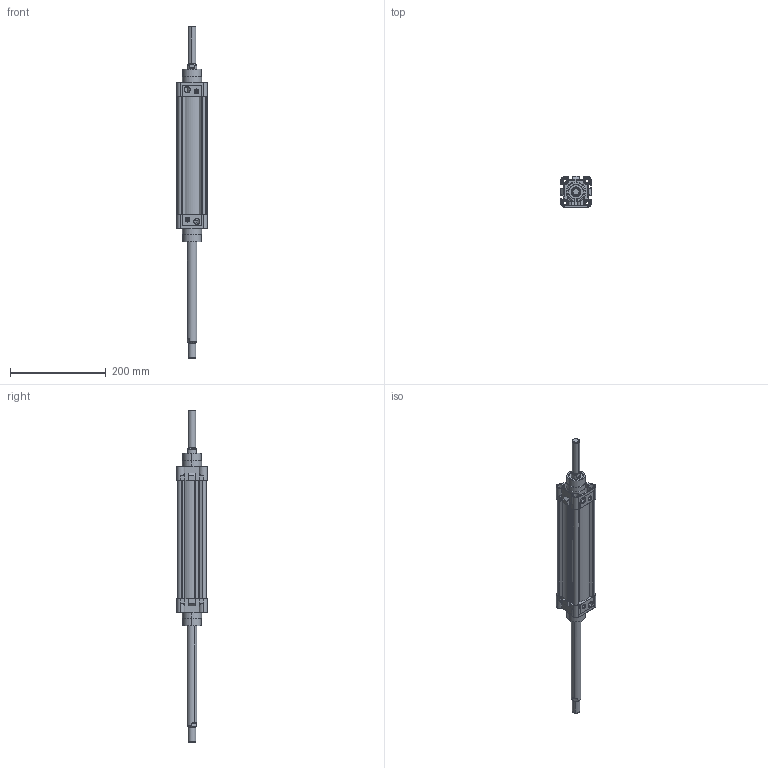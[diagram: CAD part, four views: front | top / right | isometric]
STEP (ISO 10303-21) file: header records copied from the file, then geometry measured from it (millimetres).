
FILE_DESCRIPTION (( 'STEP AP203' ), '1' );
FILE_NAME ('KDNT50X200CIFTMILLI-STROK AYARLI-CYLINDER.STEP', '2016-03-24T12:39:59', ( 'user' ), ( '' ), 'SwSTEP 2.0', 'SolidWorks 2013', '' );
FILE_SCHEMA (( 'CONFIG_CONTROL_DESIGN' ));
Length unit declared in the file: millimetre
Products named in the file (6): ORTA PÝSTON 50 Çift Milli; SAPLAMALI M尳 STROK AYARLI 50x200; Piston Mili 50x200; KDNT50X200CIFTMILLI-STROK AYARLI-CYLINDER; 烰 KAPAK  50; KDNT 50X200 BORU
Assembly tree (6 placements, depth 2):
  KDNT50X200CIFTMILLI-STROK AYARLI-CYLINDER
    烰 KAPAK  50  x2
    KDNT 50X200 BORU
    ORTA PÝSTON 50 Çift Milli
    SAPLAMALI M尳 STROK AYARLI 50x200
    Piston Mili 50x200
Bounding box: 64 x 64.3 x 691.9 mm (x, y, z)
Volume: 585371.9 mm3; surface area: 281826.6 mm2
Topology: 13 solids, 13 shells, 844 faces, 2088 edges, 1349 vertices
Faces by surface type: cylinder 414, plane 306, cone 84, bspline 32, torus 8
Entity records: 20777 total; most frequent: CARTESIAN_POINT 7032, DIRECTION 2765, ORIENTED_EDGE 2720, EDGE_CURVE 1360, AXIS2_PLACEMENT_3D 1072, VERTEX_POINT 881, EDGE_LOOP 639, VECTOR 621
